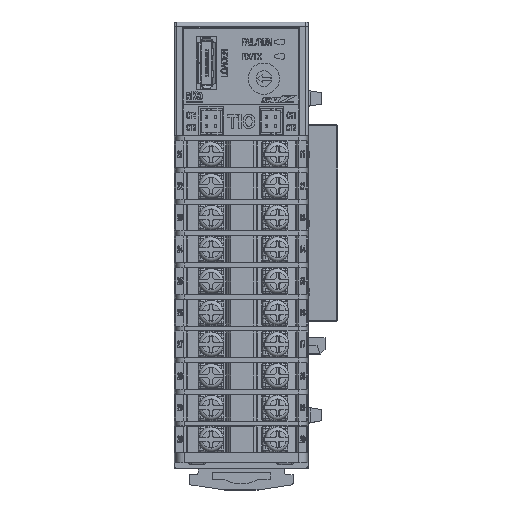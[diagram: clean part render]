
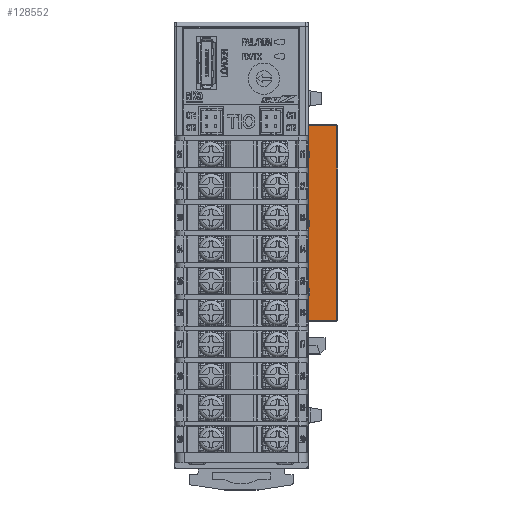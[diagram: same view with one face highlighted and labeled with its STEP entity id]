
A CAD part, top view. The second image highlights one B-rep face of the part: STEP entity #128552.
In plain terms, the highlighted planar face has unit normal (0, 0, 1).
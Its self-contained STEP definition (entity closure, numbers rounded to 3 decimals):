
#1464 = CARTESIAN_POINT ( 'NONE',  ( 15.35, -9.7, 12.8 ) ) ;
#2742 = DIRECTION ( 'NONE',  ( 1., 0., 0. ) ) ;
#5494 = CARTESIAN_POINT ( 'NONE',  ( 21.45, -16.85, 12.8 ) ) ;
#5992 = EDGE_CURVE ( 'NONE', #179918, #54585, #107371, .T. ) ;
#9169 = VECTOR ( 'NONE', #63772, 1000. ) ;
#11215 = DIRECTION ( 'NONE',  ( 1., 0., 0. ) ) ;
#11620 = EDGE_CURVE ( 'NONE', #175127, #29304, #144094, .T. ) ;
#11955 = EDGE_CURVE ( 'NONE', #68715, #146736, #136467, .T. ) ;
#12382 = DIRECTION ( 'NONE',  ( 0., 1., 0. ) ) ;
#12409 = LINE ( 'NONE', #107289, #91970 ) ;
#12768 = EDGE_CURVE ( 'NONE', #78796, #60307, #196099, .T. ) ;
#17095 = EDGE_CURVE ( 'NONE', #78796, #172805, #57925, .T. ) ;
#17244 = VECTOR ( 'NONE', #91243, 1000. ) ;
#19645 = VECTOR ( 'NONE', #189228, 1000. ) ;
#21338 = LINE ( 'NONE', #187655, #185579 ) ;
#21349 = CARTESIAN_POINT ( 'NONE',  ( 15.35, 5.7, 12.8 ) ) ;
#21674 = VECTOR ( 'NONE', #68552, 1000. ) ;
#22056 = DIRECTION ( 'NONE',  ( 1., 0., 0. ) ) ;
#22948 = VECTOR ( 'NONE', #192484, 1000. ) ;
#23837 = EDGE_CURVE ( 'NONE', #131893, #152070, #12409, .T. ) ;
#24419 = CARTESIAN_POINT ( 'NONE',  ( 13.35, -11.1, 12.8 ) ) ;
#24496 = EDGE_CURVE ( 'NONE', #182593, #68715, #66862, .T. ) ;
#28173 = DIRECTION ( 'NONE',  ( 0., -1., 0. ) ) ;
#29304 = VERTEX_POINT ( 'NONE', #159648 ) ;
#31834 = VECTOR ( 'NONE', #142628, 1000. ) ;
#32816 = CARTESIAN_POINT ( 'NONE',  ( 13.35, 27.05, 12.8 ) ) ;
#37058 = ORIENTED_EDGE ( 'NONE', *, *, #87377, .F. ) ;
#37161 = LINE ( 'NONE', #82545, #206451 ) ;
#38705 = EDGE_CURVE ( 'NONE', #131893, #104472, #37161, .T. ) ;
#38717 = CARTESIAN_POINT ( 'NONE',  ( 15.35, -11.1, 12.8 ) ) ;
#40775 = ORIENTED_EDGE ( 'NONE', *, *, #56680, .T. ) ;
#42602 = CARTESIAN_POINT ( 'NONE',  ( 13.35, -11.1, 12.8 ) ) ;
#45213 = CARTESIAN_POINT ( 'NONE',  ( 13.35, 4.3, 12.8 ) ) ;
#49077 = ORIENTED_EDGE ( 'NONE', *, *, #17095, .F. ) ;
#50549 = ORIENTED_EDGE ( 'NONE', *, *, #173359, .T. ) ;
#51414 = LINE ( 'NONE', #175128, #9169 ) ;
#54585 = VERTEX_POINT ( 'NONE', #5494 ) ;
#54703 = DIRECTION ( 'NONE',  ( 0., -1., 0. ) ) ;
#55739 = EDGE_CURVE ( 'NONE', #60307, #76342, #170955, .T. ) ;
#56680 = EDGE_CURVE ( 'NONE', #54585, #182593, #21338, .T. ) ;
#57925 = LINE ( 'NONE', #69921, #142533 ) ;
#58906 = VECTOR ( 'NONE', #11215, 1000. ) ;
#60307 = VERTEX_POINT ( 'NONE', #121053 ) ;
#63772 = DIRECTION ( 'NONE',  ( 1., 0., 0. ) ) ;
#66862 = LINE ( 'NONE', #93864, #19645 ) ;
#68552 = DIRECTION ( 'NONE',  ( 1., 0., 0. ) ) ;
#68715 = VERTEX_POINT ( 'NONE', #137469 ) ;
#69304 = VECTOR ( 'NONE', #166204, 1000. ) ;
#69921 = CARTESIAN_POINT ( 'NONE',  ( 15.35, 4.3, 12.8 ) ) ;
#71005 = EDGE_CURVE ( 'NONE', #126474, #104472, #153992, .T. ) ;
#76342 = VERTEX_POINT ( 'NONE', #1464 ) ;
#78650 = CARTESIAN_POINT ( 'NONE',  ( 15.35, 4.3, 12.8 ) ) ;
#78796 = VERTEX_POINT ( 'NONE', #45213 ) ;
#80374 = CARTESIAN_POINT ( 'NONE',  ( 21.65, -17.05, 12.8 ) ) ;
#82545 = CARTESIAN_POINT ( 'NONE',  ( 13.35, 19.7, 12.8 ) ) ;
#86021 = VERTEX_POINT ( 'NONE', #91837 ) ;
#87264 = ORIENTED_EDGE ( 'NONE', *, *, #162152, .F. ) ;
#87377 = EDGE_CURVE ( 'NONE', #29304, #76342, #154051, .T. ) ;
#87574 = FACE_OUTER_BOUND ( 'NONE', #127085, .T. ) ;
#91243 = DIRECTION ( 'NONE',  ( 1., 0., 0. ) ) ;
#91590 = CARTESIAN_POINT ( 'NONE',  ( 15.35, 4.3, 12.8 ) ) ;
#91837 = CARTESIAN_POINT ( 'NONE',  ( 15.35, 5.7, 12.8 ) ) ;
#91970 = VECTOR ( 'NONE', #28173, 1000. ) ;
#92525 = CARTESIAN_POINT ( 'NONE',  ( 13.35, 19.7, 12.8 ) ) ;
#92561 = ORIENTED_EDGE ( 'NONE', *, *, #71005, .T. ) ;
#93864 = CARTESIAN_POINT ( 'NONE',  ( 21.65, 26.85, 12.8 ) ) ;
#94193 = VECTOR ( 'NONE', #54703, 1000. ) ;
#96378 = DIRECTION ( 'NONE',  ( 0., 1., 0. ) ) ;
#96973 = CARTESIAN_POINT ( 'NONE',  ( 21.45, 26.85, 12.8 ) ) ;
#102549 = ORIENTED_EDGE ( 'NONE', *, *, #162476, .T. ) ;
#104472 = VERTEX_POINT ( 'NONE', #141425 ) ;
#104486 = CARTESIAN_POINT ( 'NONE',  ( 15.35, 21.1, 12.8 ) ) ;
#106371 = CARTESIAN_POINT ( 'NONE',  ( 13.35, -9.7, 12.8 ) ) ;
#107289 = CARTESIAN_POINT ( 'NONE',  ( 13.35, 27.05, 12.8 ) ) ;
#107371 = LINE ( 'NONE', #176487, #22948 ) ;
#109868 = ORIENTED_EDGE ( 'NONE', *, *, #12768, .T. ) ;
#113721 = VECTOR ( 'NONE', #12382, 1000. ) ;
#115715 = ORIENTED_EDGE ( 'NONE', *, *, #5992, .T. ) ;
#120059 = ORIENTED_EDGE ( 'NONE', *, *, #55739, .T. ) ;
#121053 = CARTESIAN_POINT ( 'NONE',  ( 13.35, -9.7, 12.8 ) ) ;
#126474 = VERTEX_POINT ( 'NONE', #104486 ) ;
#127085 = EDGE_LOOP ( 'NONE', ( #204308, #50549, #92561, #158656, #164081, #102549, #87264, #49077, #109868, #120059, #37058, #183779, #139675, #115715, #40775, #194401 ) ) ;
#128552 = ADVANCED_FACE ( 'NONE', ( #87574 ), #159750, .F. ) ;
#131893 = VERTEX_POINT ( 'NONE', #92525 ) ;
#131894 = CARTESIAN_POINT ( 'NONE',  ( 13.35, 27.05, 12.8 ) ) ;
#136467 = LINE ( 'NONE', #131894, #94193 ) ;
#136814 = CARTESIAN_POINT ( 'NONE',  ( 13.35, 21.1, 12.8 ) ) ;
#137469 = CARTESIAN_POINT ( 'NONE',  ( 13.35, 26.85, 12.8 ) ) ;
#139675 = ORIENTED_EDGE ( 'NONE', *, *, #158257, .T. ) ;
#141425 = CARTESIAN_POINT ( 'NONE',  ( 15.35, 19.7, 12.8 ) ) ;
#142533 = VECTOR ( 'NONE', #22056, 1000. ) ;
#142628 = DIRECTION ( 'NONE',  ( 0., -1., 0. ) ) ;
#144094 = LINE ( 'NONE', #42602, #17244 ) ;
#146736 = VERTEX_POINT ( 'NONE', #136814 ) ;
#149004 = VECTOR ( 'NONE', #198022, 1000. ) ;
#149128 = CARTESIAN_POINT ( 'NONE',  ( 13.35, 5.7, 12.8 ) ) ;
#150182 = CARTESIAN_POINT ( 'NONE',  ( 15.35, 21.1, 12.8 ) ) ;
#152070 = VERTEX_POINT ( 'NONE', #149128 ) ;
#152508 = VECTOR ( 'NONE', #171954, 1000. ) ;
#153992 = LINE ( 'NONE', #150182, #69304 ) ;
#154051 = LINE ( 'NONE', #38717, #149004 ) ;
#155972 = CARTESIAN_POINT ( 'NONE',  ( 13.35, 27.05, 12.8 ) ) ;
#158257 = EDGE_CURVE ( 'NONE', #175127, #179918, #204823, .T. ) ;
#158656 = ORIENTED_EDGE ( 'NONE', *, *, #38705, .F. ) ;
#159648 = CARTESIAN_POINT ( 'NONE',  ( 15.35, -11.1, 12.8 ) ) ;
#159750 = PLANE ( 'NONE',  #182233 ) ;
#161130 = LINE ( 'NONE', #91590, #113721 ) ;
#161311 = CARTESIAN_POINT ( 'NONE',  ( 13.35, -16.85, 12.8 ) ) ;
#162152 = EDGE_CURVE ( 'NONE', #172805, #86021, #161130, .T. ) ;
#162476 = EDGE_CURVE ( 'NONE', #152070, #86021, #185924, .T. ) ;
#164081 = ORIENTED_EDGE ( 'NONE', *, *, #23837, .T. ) ;
#166204 = DIRECTION ( 'NONE',  ( 0., -1., 0. ) ) ;
#170955 = LINE ( 'NONE', #106371, #58906 ) ;
#171621 = DIRECTION ( 'NONE',  ( 0., 1., 0. ) ) ;
#171954 = DIRECTION ( 'NONE',  ( 0., -1., 0. ) ) ;
#172805 = VERTEX_POINT ( 'NONE', #78650 ) ;
#173359 = EDGE_CURVE ( 'NONE', #146736, #126474, #51414, .T. ) ;
#175127 = VERTEX_POINT ( 'NONE', #24419 ) ;
#175128 = CARTESIAN_POINT ( 'NONE',  ( 13.35, 21.1, 12.8 ) ) ;
#176487 = CARTESIAN_POINT ( 'NONE',  ( 21.65, -16.85, 12.8 ) ) ;
#179918 = VERTEX_POINT ( 'NONE', #161311 ) ;
#182233 = AXIS2_PLACEMENT_3D ( 'NONE', #80374, #191751, #96378 ) ;
#182593 = VERTEX_POINT ( 'NONE', #96973 ) ;
#183779 = ORIENTED_EDGE ( 'NONE', *, *, #11620, .F. ) ;
#185579 = VECTOR ( 'NONE', #171621, 1000. ) ;
#185924 = LINE ( 'NONE', #21349, #21674 ) ;
#187655 = CARTESIAN_POINT ( 'NONE',  ( 21.45, 27.05, 12.8 ) ) ;
#189228 = DIRECTION ( 'NONE',  ( -1., 0., 0. ) ) ;
#191751 = DIRECTION ( 'NONE',  ( 0., 0., -1. ) ) ;
#192484 = DIRECTION ( 'NONE',  ( 1., 0., 0. ) ) ;
#194401 = ORIENTED_EDGE ( 'NONE', *, *, #24496, .T. ) ;
#196099 = LINE ( 'NONE', #32816, #31834 ) ;
#198022 = DIRECTION ( 'NONE',  ( 0., 1., 0. ) ) ;
#204308 = ORIENTED_EDGE ( 'NONE', *, *, #11955, .T. ) ;
#204823 = LINE ( 'NONE', #155972, #152508 ) ;
#206451 = VECTOR ( 'NONE', #2742, 1000. ) ;
